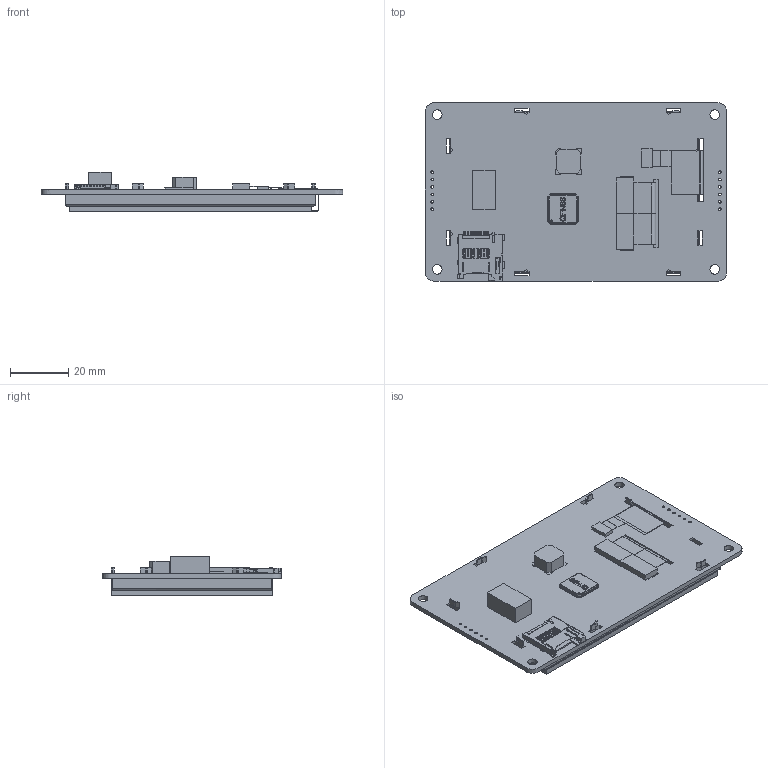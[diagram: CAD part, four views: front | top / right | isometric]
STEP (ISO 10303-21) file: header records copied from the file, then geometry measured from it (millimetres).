
FILE_DESCRIPTION(/* description */ (''),/* implementation_level */ '2;1');
FILE_NAME(/* name */ '',/* time_stamp */ '2023-06-27T18:18:17+08:00',/* author */ (''),/* organization */ (''),/* preprocessor_version */ 'ST-DEVELOPER v11',/* originating_system */ 'SIEMENS PLM Software NX 7.5',/* authorisation */ '');
FILE_SCHEMA (('AP203_CONFIGURATION_CONTROLLED_3D_DESIGN_OF_MECHANICAL_PARTS_AND_ASSEMBLIES_MIM_LF'));
Products named in the file (1): SDWb035T03C-SSJ
Bounding box: 103.3 x 61.1 x 13.6 mm (x, y, z)
Volume: 45359.4 mm3; surface area: 56022.6 mm2
Topology: 32 solids, 32 shells, 2447 faces, 6893 edges, 4541 vertices
Faces by surface type: plane 2005, cylinder 433, bspline 7, cone 1, extrusion 1
Full cylindrical faces by diameter (mm): 0.9 x12, 3.3 x4
Entity records: 80024 total; most frequent: CARTESIAN_POINT 14363, ORIENTED_EDGE 13752, DIRECTION 12530, EDGE_CURVE 6876, VECTOR 5978, LINE 5977, VERTEX_POINT 4541, AXIS2_PLACEMENT_3D 3276
